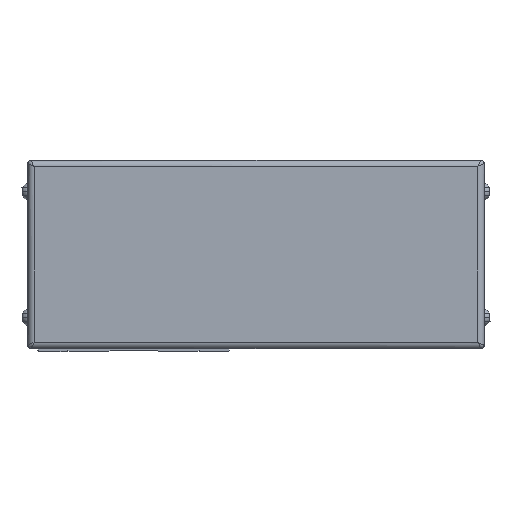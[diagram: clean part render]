
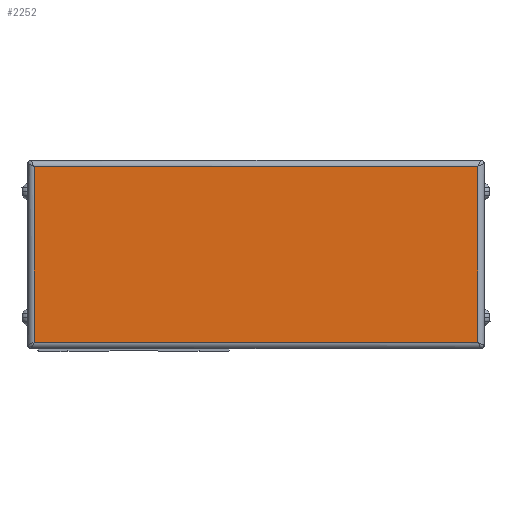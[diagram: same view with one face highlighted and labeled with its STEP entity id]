
A CAD part, left-side view. The second image highlights one B-rep face of the part: STEP entity #2252.
In plain terms, the highlighted planar face has unit normal (-1, 0, 0) as drawn and (0, 0, 1) by its records, which use the part's own axes.
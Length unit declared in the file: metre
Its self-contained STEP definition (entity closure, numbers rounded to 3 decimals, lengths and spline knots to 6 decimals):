
#2252=ADVANCED_FACE('',(#5456),#5457,.T.);
#5456=FACE_OUTER_BOUND('',#10333,.T.);
#5457=PLANE('',#10334);
#10333=EDGE_LOOP('',(#19035,#19036,#19037,#19038));
#10334=AXIS2_PLACEMENT_3D('',#19039,#19040,#19041);
#19035=ORIENTED_EDGE('',*,*,#31730,.F.);
#19036=ORIENTED_EDGE('',*,*,#31731,.F.);
#19037=ORIENTED_EDGE('',*,*,#31732,.F.);
#19038=ORIENTED_EDGE('',*,*,#31733,.F.);
#19039=CARTESIAN_POINT('',(-0.009,-0.053256,0.033889));
#19040=DIRECTION('',(0.0,0.0,1.0));
#19041=DIRECTION('',(1.0,0.0,0.0));
#31730=EDGE_CURVE('',#36694,#36695,#36696,.T.);
#31731=EDGE_CURVE('',#36697,#36694,#36698,.T.);
#31732=EDGE_CURVE('',#36699,#36697,#36700,.T.);
#31733=EDGE_CURVE('',#36695,#36699,#36701,.T.);
#36694=VERTEX_POINT('',#43973);
#36695=VERTEX_POINT('',#43974);
#36696=LINE('',#43975,#43976);
#36697=VERTEX_POINT('',#43977);
#36698=LINE('',#43978,#43979);
#36699=VERTEX_POINT('',#43980);
#36700=LINE('',#43981,#43982);
#36701=LINE('',#43983,#43984);
#43973=CARTESIAN_POINT('',(0.019,0.017444,0.033889));
#43974=CARTESIAN_POINT('',(0.019,-0.123956,0.033889));
#43975=CARTESIAN_POINT('',(0.019,-0.053256,0.033889));
#43976=VECTOR('',#54890,1.0);
#43977=CARTESIAN_POINT('',(-0.037,0.017444,0.033889));
#43978=CARTESIAN_POINT('',(-0.009,0.017444,0.033889));
#43979=VECTOR('',#54891,1.0);
#43980=CARTESIAN_POINT('',(-0.037,-0.123956,0.033889));
#43981=CARTESIAN_POINT('',(-0.037,-0.053256,0.033889));
#43982=VECTOR('',#54892,1.0);
#43983=CARTESIAN_POINT('',(-0.009,-0.123956,0.033889));
#43984=VECTOR('',#54893,1.0);
#54890=DIRECTION('',(0.0,-1.0,0.0));
#54891=DIRECTION('',(1.0,0.0,0.0));
#54892=DIRECTION('',(0.0,1.0,0.0));
#54893=DIRECTION('',(-1.0,0.0,0.0));
